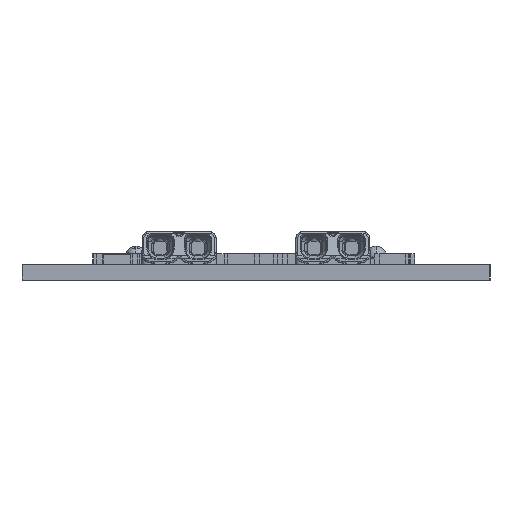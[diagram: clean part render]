
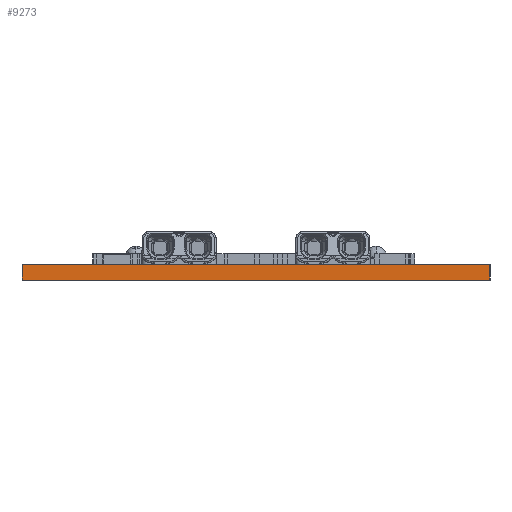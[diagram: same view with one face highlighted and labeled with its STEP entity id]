
A CAD part, left-side view. The second image highlights one B-rep face of the part: STEP entity #9273.
In plain terms, the highlighted planar face has unit normal (-1, 0, 0).
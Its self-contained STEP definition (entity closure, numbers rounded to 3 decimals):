
#90=DIRECTION('',(0.,-1.,0.));
#91=VECTOR('',#90,49.5);
#92=CARTESIAN_POINT('',(5.,54.5,0.));
#93=LINE('',#92,#91);
#2410=DIRECTION('',(0.,0.,1.));
#2411=VECTOR('',#2410,1.65);
#2412=CARTESIAN_POINT('',(5.,5.,-1.65));
#2413=LINE('',#2412,#2411);
#2417=DIRECTION('',(0.,0.,-1.));
#2418=VECTOR('',#2417,1.65);
#2419=CARTESIAN_POINT('',(5.,54.5,0.));
#2420=LINE('',#2419,#2418);
#2438=DIRECTION('',(0.,1.,0.));
#2439=VECTOR('',#2438,49.5);
#2440=CARTESIAN_POINT('',(5.,5.,-1.65));
#2441=LINE('',#2440,#2439);
#7284=CARTESIAN_POINT('',(5.,5.,0.));
#7285=VERTEX_POINT('',#7284);
#7320=CARTESIAN_POINT('',(5.,5.,-1.65));
#7321=VERTEX_POINT('',#7320);
#7328=CARTESIAN_POINT('',(5.,54.5,-1.65));
#7329=VERTEX_POINT('',#7328);
#7356=CARTESIAN_POINT('',(5.,54.5,0.));
#7357=VERTEX_POINT('',#7356);
#9260=CARTESIAN_POINT('',(5.,54.5,0.));
#9261=DIRECTION('',(-1.,0.,0.));
#9262=DIRECTION('',(0.,0.,1.));
#9263=AXIS2_PLACEMENT_3D('',#9260,#9261,#9262);
#9264=PLANE('',#9263);
#9266=ORIENTED_EDGE('',*,*,#9265,.F.);
#9268=ORIENTED_EDGE('',*,*,#9267,.T.);
#9269=ORIENTED_EDGE('',*,*,#9244,.F.);
#9270=ORIENTED_EDGE('',*,*,#8474,.T.);
#9271=EDGE_LOOP('',(#9266,#9268,#9269,#9270));
#9272=FACE_OUTER_BOUND('',#9271,.F.);
#8474=EDGE_CURVE('',#7357,#7285,#93,.T.);
#9244=EDGE_CURVE('',#7357,#7329,#2420,.T.);
#9265=EDGE_CURVE('',#7321,#7285,#2413,.T.);
#9267=EDGE_CURVE('',#7321,#7329,#2441,.T.);
#9273=ADVANCED_FACE('',(#9272),#9264,.T.);
